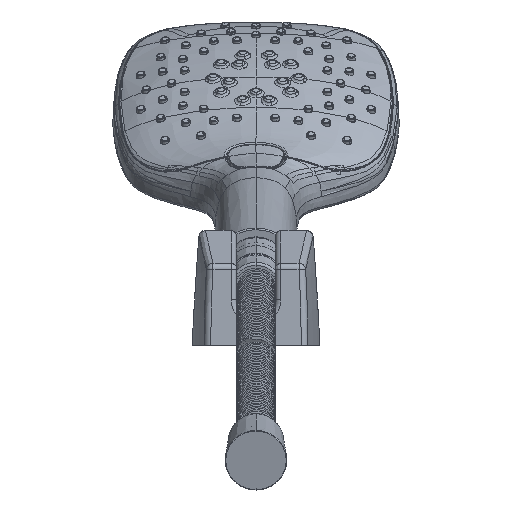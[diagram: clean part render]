
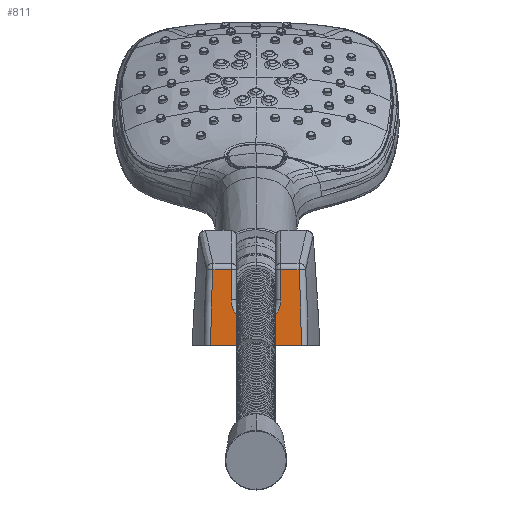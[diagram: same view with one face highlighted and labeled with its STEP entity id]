
A CAD part, front view. The second image highlights one B-rep face of the part: STEP entity #811.
In plain terms, the highlighted planar face has unit normal (0, -1, 0).
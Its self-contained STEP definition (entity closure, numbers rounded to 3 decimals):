
#1=DIRECTION('',(0.,0.,1.));
#2=VECTOR('',#1,11.314);
#3=CARTESIAN_POINT('',(-9.25,0.,17.));
#4=LINE('',#3,#2);
#5=CARTESIAN_POINT('',(0.,0.,17.));
#6=DIRECTION('',(0.,1.,0.));
#7=DIRECTION('',(1.,0.,0.));
#8=AXIS2_PLACEMENT_3D('',#5,#6,#7);
#10=DIRECTION('',(0.,0.,-1.));
#11=VECTOR('',#10,11.314);
#12=CARTESIAN_POINT('',(9.25,0.,28.314));
#13=LINE('',#12,#11);
#14=DIRECTION('',(1.,0.,0.));
#15=VECTOR('',#14,6.8);
#16=CARTESIAN_POINT('',(9.25,0.,28.314));
#17=LINE('',#16,#15);
#18=CARTESIAN_POINT('',(-481.798,0.,0.));
#19=DIRECTION('',(0.,-1.,0.));
#20=DIRECTION('',(1.,0.,0.));
#21=AXIS2_PLACEMENT_3D('',#18,#19,#20);
#23=CARTESIAN_POINT('',(481.798,0.,0.));
#24=DIRECTION('',(0.,-1.,0.));
#25=DIRECTION('',(-0.998,0.,0.057));
#26=AXIS2_PLACEMENT_3D('',#23,#24,#25);
#28=DIRECTION('',(1.,0.,0.));
#29=VECTOR('',#28,6.8);
#30=CARTESIAN_POINT('',(-16.05,0.,28.314));
#31=LINE('',#30,#29);
#144=DIRECTION('',(1.,0.,0.));
#145=VECTOR('',#144,33.709);
#146=CARTESIAN_POINT('',(-16.855,0.,0.));
#147=LINE('',#146,#145);
#670=CARTESIAN_POINT('',(-16.855,0.,0.));
#672=VERTEX_POINT('',#670);
#676=CARTESIAN_POINT('',(-16.05,0.,28.314));
#677=VERTEX_POINT('',#676);
#689=CARTESIAN_POINT('',(16.855,0.,0.));
#691=VERTEX_POINT('',#689);
#692=CARTESIAN_POINT('',(16.05,0.,28.314));
#693=VERTEX_POINT('',#692);
#738=CARTESIAN_POINT('',(-9.25,0.,28.314));
#739=VERTEX_POINT('',#738);
#742=CARTESIAN_POINT('',(-9.25,0.,17.));
#743=VERTEX_POINT('',#742);
#746=CARTESIAN_POINT('',(9.25,0.,17.));
#747=VERTEX_POINT('',#746);
#750=CARTESIAN_POINT('',(9.25,0.,28.314));
#751=VERTEX_POINT('',#750);
#788=CARTESIAN_POINT('',(0.,0.,30.));
#789=DIRECTION('',(0.,-1.,0.));
#790=DIRECTION('',(0.,0.,-1.));
#791=AXIS2_PLACEMENT_3D('',#788,#789,#790);
#792=PLANE('',#791);
#794=ORIENTED_EDGE('',*,*,#793,.F.);
#796=ORIENTED_EDGE('',*,*,#795,.F.);
#798=ORIENTED_EDGE('',*,*,#797,.F.);
#800=ORIENTED_EDGE('',*,*,#799,.T.);
#802=ORIENTED_EDGE('',*,*,#801,.F.);
#804=ORIENTED_EDGE('',*,*,#803,.F.);
#806=ORIENTED_EDGE('',*,*,#805,.F.);
#808=ORIENTED_EDGE('',*,*,#807,.T.);
#809=EDGE_LOOP('',(#794,#796,#798,#800,#802,#804,#806,#808));
#810=FACE_OUTER_BOUND('',#809,.F.);
#811=ADVANCED_FACE('',(#810),#792,.T.);
#9=CIRCLE('',#8,9.25);
#22=CIRCLE('',#21,498.653);
#27=CIRCLE('',#26,498.653);
#793=EDGE_CURVE('',#743,#739,#4,.T.);
#795=EDGE_CURVE('',#747,#743,#9,.T.);
#797=EDGE_CURVE('',#751,#747,#13,.T.);
#799=EDGE_CURVE('',#751,#693,#17,.T.);
#801=EDGE_CURVE('',#691,#693,#22,.T.);
#803=EDGE_CURVE('',#672,#691,#147,.T.);
#805=EDGE_CURVE('',#677,#672,#27,.T.);
#807=EDGE_CURVE('',#677,#739,#31,.T.);
